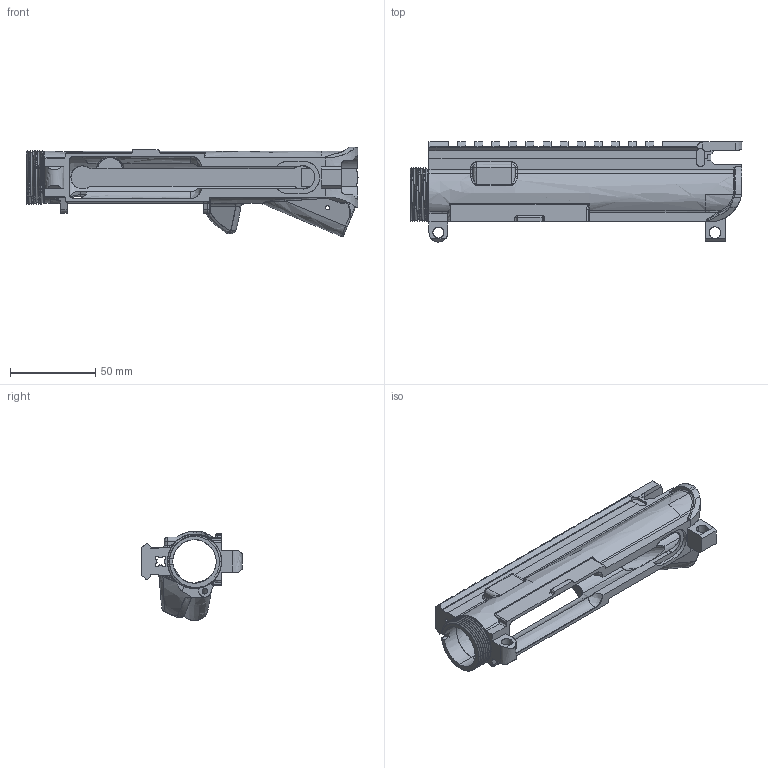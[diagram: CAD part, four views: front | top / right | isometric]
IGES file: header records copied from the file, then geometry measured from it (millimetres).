
Start section: SolidWorks IGES FILE using analytic representation for surfaces
Global section: file name: C:\AAA_Downloads\Gun Drawings\Guns\Iges Files\upper-a3.IGS; native system: SolidWorks 2004 by SolidWorks Corporation; preprocessor: Version 5.3; author: Me; date: 040220.211310; units: inch
Bounding box: 194.41 x 58.58 x 52.31 mm (x, y, z)
Surface area: 52214.2 mm2 (no closed solid volume)
Topology: 0 solids, 0 shells, 547 faces, 6056 edges, 6028 vertices
Faces by surface type: bspline 318, revolution 229
